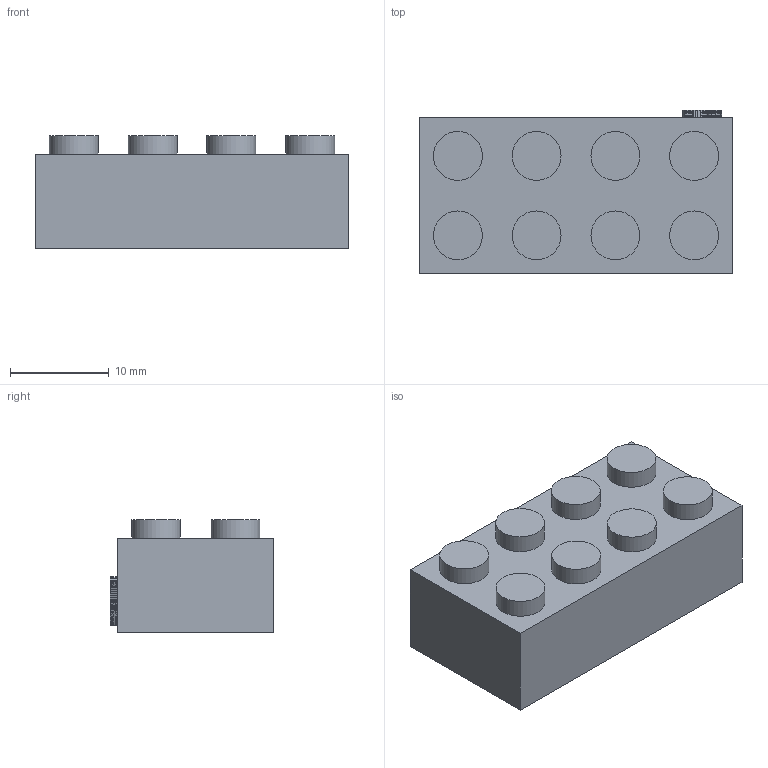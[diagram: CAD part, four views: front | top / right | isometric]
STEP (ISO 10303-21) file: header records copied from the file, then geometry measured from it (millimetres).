
FILE_DESCRIPTION(('Open CASCADE Model'),'2;1');
FILE_NAME('Open CASCADE Shape Model','2026-10-28T14:48:54',('Author'),( 'Open CASCADE'),'Open CASCADE STEP processor 7.9','Open CASCADE 7.9' ,'Unknown');
FILE_SCHEMA(('AUTOMOTIVE_DESIGN { 1 0 10303 214 1 1 1 1 }'));
Products named in the file (1): Open CASCADE STEP translator 7.9 1
Bounding box: 31.75 x 16.56 x 11.35 mm (x, y, z)
Volume: 2964.6 mm3; surface area: 3212.5 mm2
Topology: 1 solids, 9 shells, 1149 faces, 2353 edges, 1236 vertices
Faces by surface type: plane 1137, cylinder 12
Full cylindrical faces by diameter (mm): 2.311 x1, 4.953 x8, 6.477 x3
Entity records: 58819 total; most frequent: CARTESIAN_POINT 9463, DIRECTION 9380, LINE 7011, VECTOR 7011, ORIENTED_EDGE 4706, PCURVE 4706, DEFINITIONAL_REPRESENTATION 4706, EDGE_CURVE 2353
